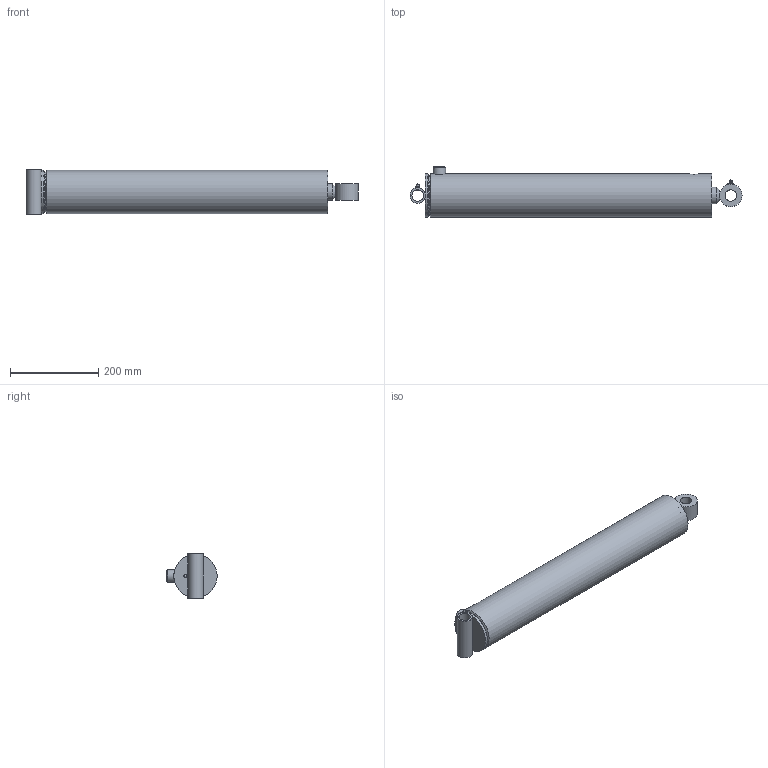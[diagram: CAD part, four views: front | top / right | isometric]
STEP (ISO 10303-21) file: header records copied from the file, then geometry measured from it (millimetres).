
FILE_DESCRIPTION((''),'2;1');
FILE_NAME('\\SRVR-ENG\EngSales\PMC-5520.stp','2012-08-27T07:43:48',('KneiflD'),(''),'Autodesk Inventor 2012','Autodesk Inventor 2012','');
FILE_SCHEMA(('AUTOMOTIVE_DESIGN { 1 0 10303 214 1 1 1 1 }'));
Length unit declared in the file: inch
Products named in the file (17): PMC-5520; 061700028; 051700043; 161700005V; 200014404V; 210400024V; 020800260; 010800791; 210400528V; 071700016V; 081700326V; 220000210; 230001350V; 200018003V; 270010002V; 270010020V; 250001222V
Assembly tree (17 placements, depth 3):
  PMC-5520
    061700028
      051700043
      161700005V
      200014404V
      210400024V
    020800260
      010800791
      210400528V
    071700016V
    081700326V
    220000210
    230001350V
    200018003V  x2
    270010002V
    270010020V
    250001222V
Bounding box: 754.05 x 114.3 x 101.6 mm (x, y, z)
Volume: 2268373.7 mm3; surface area: 601038.2 mm2
Topology: 15 solids, 15 shells, 215 faces, 438 edges, 266 vertices
Faces by surface type: plane 96, cylinder 54, cone 34, torus 25, bspline 4, sphere 2
Full cylindrical faces by diameter (mm): 1.524 x2, 3.175 x2, 5.486 x1, 6.074 x1, 8.839 x1, 9.08 x1, 12.7 x1, 17.463 x1, 17.475 x1, 23.444 x1, 23.813 x1, 25.349 x1, 25.476 x1, 25.908 x1, 26.162 x1, 27.965 x1, 28.575 x1, 34.925 x1, 38.1 x2, 38.176 x2, 41.91 x1, 46.025 x2, 47.625 x1, 50.8 x1, 53.975 x1, 69.342 x1, 79.451 x1, 80.061 x1, 80.264 x1, 84.125 x1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
Entity records: 5597 total; most frequent: CARTESIAN_POINT 1432, DIRECTION 842, ORIENTED_EDGE 556, AXIS2_PLACEMENT_3D 387, EDGE_LOOP 346, EDGE_CURVE 278, VERTEX_POINT 226, FACE_OUTER_BOUND 198
